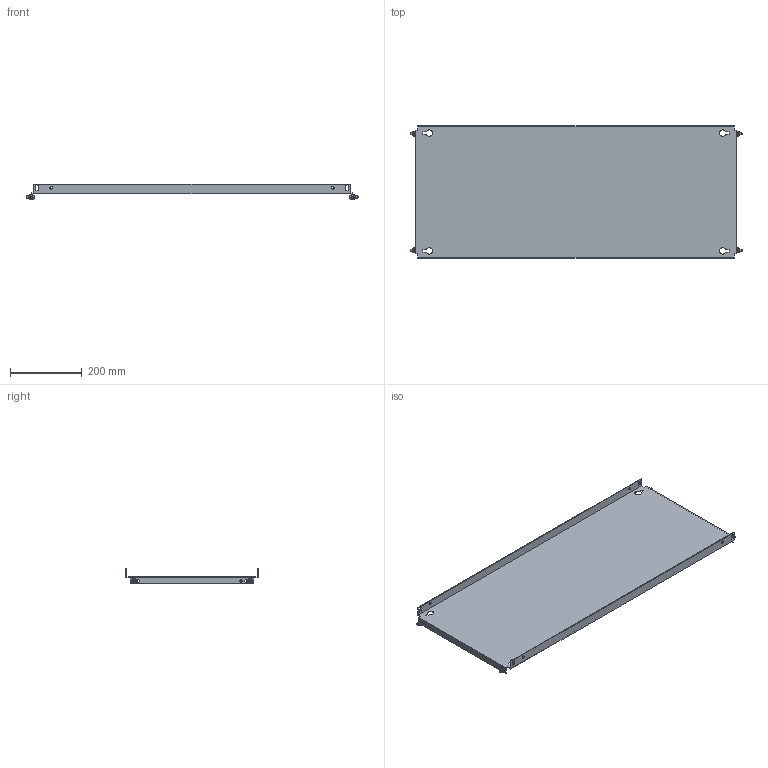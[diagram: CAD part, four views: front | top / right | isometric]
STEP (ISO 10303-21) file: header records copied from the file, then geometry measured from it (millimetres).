
FILE_DESCRIPTION(('Open CASCADE Model'),'2;1');
FILE_NAME('Open CASCADE Shape Model','2025-02-20T13:24:44',('Author'),( 'Open CASCADE'),'Open CASCADE STEP processor 7.8','Open CASCADE 7.8' ,'Unknown');
FILE_SCHEMA(('AUTOMOTIVE_DESIGN { 1 0 10303 214 1 1 1 1 }'));
Length unit declared in the file: millimetre
Products named in the file (4): Compound1; Solid1; Solid2; Solid3
Assembly tree (9 placements, depth 2):
  Compound1
    Solid1
    Solid2  x4
    Solid3  x4
Bounding box: 928 x 369 x 43 mm (x, y, z)
Volume: 773749.8 mm3; surface area: 779739.8 mm2
Topology: 9 solids, 9 shells, 308 faces, 753 edges, 467 vertices
Faces by surface type: plane 150, cone 68, bspline 48, cylinder 30, torus 12
Full cylindrical faces by diameter (mm): 5 x4, 6 x8, 7 x14
Entity records: 4930 total; most frequent: CARTESIAN_POINT 1377, ORIENTED_EDGE 756, DIRECTION 642, EDGE_CURVE 378, VERTEX_POINT 245, LINE 216, VECTOR 216, AXIS2_PLACEMENT_3D 213
